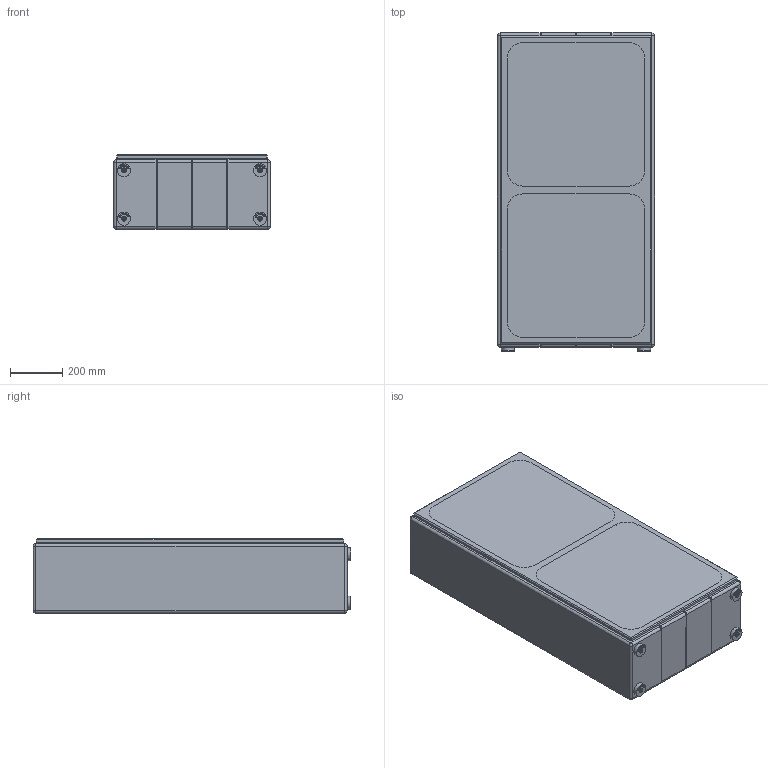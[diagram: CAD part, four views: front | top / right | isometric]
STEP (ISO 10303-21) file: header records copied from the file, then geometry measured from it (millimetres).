
FILE_DESCRIPTION(/* description */ ('','CAx-IF Rec.Pracs.---Representation and Presentation of Product Manufacturing Information (PMI)---4.0---2014-10-13'),/* implementation_level */ '2;1');
FILE_NAME(/* name */ 'THE18-2 SUB PRO PASSIVE SUB SEALED SHALLOW_Public_SI.step',/* time_stamp */ '2025-01-29T12:12:36+01:00',/* author */ (''),/* organization */ (''),/* preprocessor_version */ 'ST-DEVELOPER v20',/* originating_system */ 'Autodesk Translation Framework v13.20.0.188',/* authorisation */ '');
FILE_SCHEMA (('AP242_MANAGED_MODEL_BASED_3D_ENGINEERING_MIM_LF { 1 0 10303 442 1 1 4 }'));
Products named in the file (3): The18-2 SUB PRO PASSIVE SUB SEALED SHALLOW; COMBINE_Grille; COMBINE_FullBox
Assembly tree (2 placements, depth 2):
  The18-2 SUB PRO PASSIVE SUB SEALED SHALLOW
    COMBINE_Grille
    COMBINE_FullBox
Bounding box: 600 x 1215 x 283.7 mm (x, y, z)
Volume: 182991234.6 mm3; surface area: 4284780.7 mm2
Topology: 2 solids, 51 shells, 4650 faces, 11363 edges, 7119 vertices
Faces by surface type: plane 1745, bspline 1443, cylinder 1171, cone 226, torus 51, sphere 14
Full cylindrical faces by diameter (mm): 2.9 x44, 3.5 x4, 4 x24, 6.8 x20, 7 x16, 7.3 x4, 8 x36, 8.5 x8, 10 x32, 10.2 x16, 10.3 x16, 11 x16, 13.332 x16, 14 x16, 16 x4, 19 x4, 50 x4, 179 x2, 180 x2, 320.243 x2, 332.921 x2, 416.627 x2, 420 x2, 462.5 x2
Entity records: 241063 total; most frequent: CARTESIAN_POINT 136859, ORIENTED_EDGE 22722, DIRECTION 19601, EDGE_CURVE 11361, VERTEX_POINT 7119, AXIS2_PLACEMENT_3D 6974, LINE 5653, VECTOR 5653
